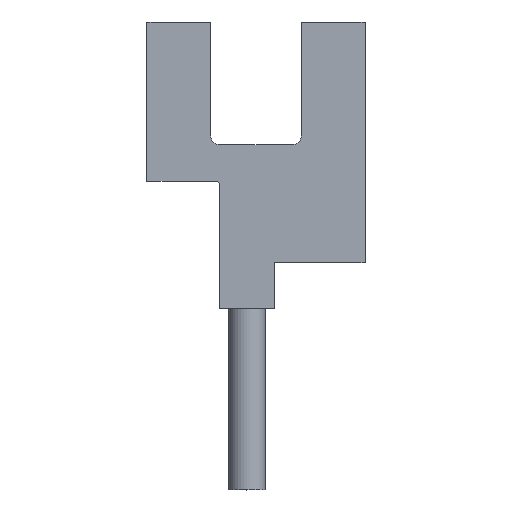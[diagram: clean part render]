
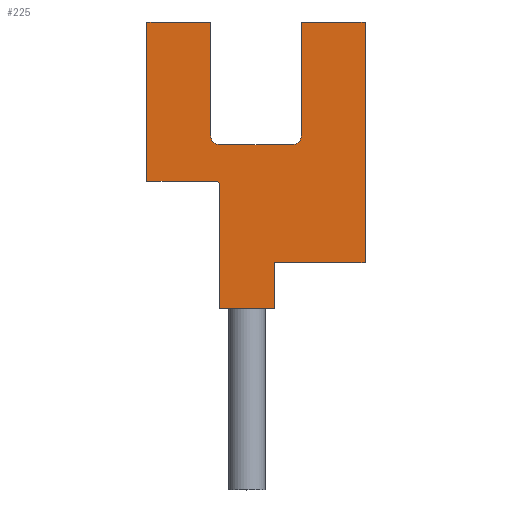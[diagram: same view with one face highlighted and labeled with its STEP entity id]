
A CAD part, top view. The second image highlights one B-rep face of the part: STEP entity #225.
In plain terms, the highlighted planar face has unit normal (0, 0, 1).
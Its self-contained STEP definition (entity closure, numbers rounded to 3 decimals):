
#24 = VERTEX_POINT('',#25);
#25 = CARTESIAN_POINT('',(-11.,5.,6.));
#31 = EDGE_CURVE('',#24,#32,#34,.T.);
#32 = VERTEX_POINT('',#33);
#33 = CARTESIAN_POINT('',(-5.,5.,6.));
#34 = LINE('',#35,#36);
#35 = CARTESIAN_POINT('',(-11.,5.,6.));
#36 = VECTOR('',#37,1.);
#37 = DIRECTION('',(1.,0.,0.));
#75 = VERTEX_POINT('',#76);
#76 = CARTESIAN_POINT('',(-11.,18.5,6.));
#82 = EDGE_CURVE('',#75,#24,#83,.T.);
#83 = LINE('',#84,#85);
#84 = CARTESIAN_POINT('',(-11.,18.5,6.));
#85 = VECTOR('',#86,1.);
#86 = DIRECTION('',(0.,-1.,0.));
#225 = ADVANCED_FACE('',(#226),#335,.T.);
#226 = FACE_BOUND('',#227,.T.);
#227 = EDGE_LOOP('',(#228,#229,#237,#245,#253,#261,#269,#278,#286,#295,
    #303,#311,#319,#327,#334));
#228 = ORIENTED_EDGE('',*,*,#31,.T.);
#229 = ORIENTED_EDGE('',*,*,#230,.T.);
#230 = EDGE_CURVE('',#32,#231,#233,.T.);
#231 = VERTEX_POINT('',#232);
#232 = CARTESIAN_POINT('',(-5.,10.,6.));
#233 = LINE('',#234,#235);
#234 = CARTESIAN_POINT('',(-5.,5.,6.));
#235 = VECTOR('',#236,1.);
#236 = DIRECTION('',(0.,1.,0.));
#237 = ORIENTED_EDGE('',*,*,#238,.T.);
#238 = EDGE_CURVE('',#231,#239,#241,.T.);
#239 = VERTEX_POINT('',#240);
#240 = CARTESIAN_POINT('',(5.,10.,6.));
#241 = LINE('',#242,#243);
#242 = CARTESIAN_POINT('',(-5.,10.,6.));
#243 = VECTOR('',#244,1.);
#244 = DIRECTION('',(1.,0.,0.));
#245 = ORIENTED_EDGE('',*,*,#246,.T.);
#246 = EDGE_CURVE('',#239,#247,#249,.T.);
#247 = VERTEX_POINT('',#248);
#248 = CARTESIAN_POINT('',(5.,36.5,6.));
#249 = LINE('',#250,#251);
#250 = CARTESIAN_POINT('',(5.,10.,6.));
#251 = VECTOR('',#252,1.);
#252 = DIRECTION('',(0.,1.,0.));
#253 = ORIENTED_EDGE('',*,*,#254,.T.);
#254 = EDGE_CURVE('',#247,#255,#257,.T.);
#255 = VERTEX_POINT('',#256);
#256 = CARTESIAN_POINT('',(-2.,36.5,6.));
#257 = LINE('',#258,#259);
#258 = CARTESIAN_POINT('',(5.,36.5,6.));
#259 = VECTOR('',#260,1.);
#260 = DIRECTION('',(-1.,0.,0.));
#261 = ORIENTED_EDGE('',*,*,#262,.T.);
#262 = EDGE_CURVE('',#255,#263,#265,.T.);
#263 = VERTEX_POINT('',#264);
#264 = CARTESIAN_POINT('',(-2.,24.,6.));
#265 = LINE('',#266,#267);
#266 = CARTESIAN_POINT('',(-2.,36.5,6.));
#267 = VECTOR('',#268,1.);
#268 = DIRECTION('',(0.,-1.,0.));
#269 = ORIENTED_EDGE('',*,*,#270,.F.);
#270 = EDGE_CURVE('',#271,#263,#273,.T.);
#271 = VERTEX_POINT('',#272);
#272 = CARTESIAN_POINT('',(-3.,23.,6.));
#273 = CIRCLE('',#274,1.);
#274 = AXIS2_PLACEMENT_3D('',#275,#276,#277);
#275 = CARTESIAN_POINT('',(-3.,24.,6.));
#276 = DIRECTION('',(0.,0.,1.));
#277 = DIRECTION('',(1.,0.,0.));
#278 = ORIENTED_EDGE('',*,*,#279,.T.);
#279 = EDGE_CURVE('',#271,#280,#282,.T.);
#280 = VERTEX_POINT('',#281);
#281 = CARTESIAN_POINT('',(-11.,23.,6.));
#282 = LINE('',#283,#284);
#283 = CARTESIAN_POINT('',(-3.,23.,6.));
#284 = VECTOR('',#285,1.);
#285 = DIRECTION('',(-1.,0.,0.));
#286 = ORIENTED_EDGE('',*,*,#287,.F.);
#287 = EDGE_CURVE('',#288,#280,#290,.T.);
#288 = VERTEX_POINT('',#289);
#289 = CARTESIAN_POINT('',(-12.,24.,6.));
#290 = CIRCLE('',#291,1.);
#291 = AXIS2_PLACEMENT_3D('',#292,#293,#294);
#292 = CARTESIAN_POINT('',(-11.,24.,6.));
#293 = DIRECTION('',(0.,0.,1.));
#294 = DIRECTION('',(1.,0.,0.));
#295 = ORIENTED_EDGE('',*,*,#296,.T.);
#296 = EDGE_CURVE('',#288,#297,#299,.T.);
#297 = VERTEX_POINT('',#298);
#298 = CARTESIAN_POINT('',(-12.,36.5,6.));
#299 = LINE('',#300,#301);
#300 = CARTESIAN_POINT('',(-12.,24.,6.));
#301 = VECTOR('',#302,1.);
#302 = DIRECTION('',(0.,1.,0.));
#303 = ORIENTED_EDGE('',*,*,#304,.T.);
#304 = EDGE_CURVE('',#297,#305,#307,.T.);
#305 = VERTEX_POINT('',#306);
#306 = CARTESIAN_POINT('',(-19.,36.5,6.));
#307 = LINE('',#308,#309);
#308 = CARTESIAN_POINT('',(-12.,36.5,6.));
#309 = VECTOR('',#310,1.);
#310 = DIRECTION('',(-1.,0.,0.));
#311 = ORIENTED_EDGE('',*,*,#312,.T.);
#312 = EDGE_CURVE('',#305,#313,#315,.T.);
#313 = VERTEX_POINT('',#314);
#314 = CARTESIAN_POINT('',(-19.,19.,6.));
#315 = LINE('',#316,#317);
#316 = CARTESIAN_POINT('',(-19.,36.5,6.));
#317 = VECTOR('',#318,1.);
#318 = DIRECTION('',(0.,-1.,0.));
#319 = ORIENTED_EDGE('',*,*,#320,.T.);
#320 = EDGE_CURVE('',#313,#321,#323,.T.);
#321 = VERTEX_POINT('',#322);
#322 = CARTESIAN_POINT('',(-11.5,19.,6.));
#323 = LINE('',#324,#325);
#324 = CARTESIAN_POINT('',(-19.,19.,6.));
#325 = VECTOR('',#326,1.);
#326 = DIRECTION('',(1.,0.,0.));
#327 = ORIENTED_EDGE('',*,*,#328,.F.);
#328 = EDGE_CURVE('',#75,#321,#329,.T.);
#329 = CIRCLE('',#330,0.5);
#330 = AXIS2_PLACEMENT_3D('',#331,#332,#333);
#331 = CARTESIAN_POINT('',(-11.5,18.5,6.));
#332 = DIRECTION('',(0.,0.,1.));
#333 = DIRECTION('',(1.,0.,0.));
#334 = ORIENTED_EDGE('',*,*,#82,.T.);
#335 = PLANE('',#336);
#336 = AXIS2_PLACEMENT_3D('',#337,#338,#339);
#337 = CARTESIAN_POINT('',(-6.541,22.712,6.));
#338 = DIRECTION('',(0.,0.,1.));
#339 = DIRECTION('',(1.,0.,0.));
